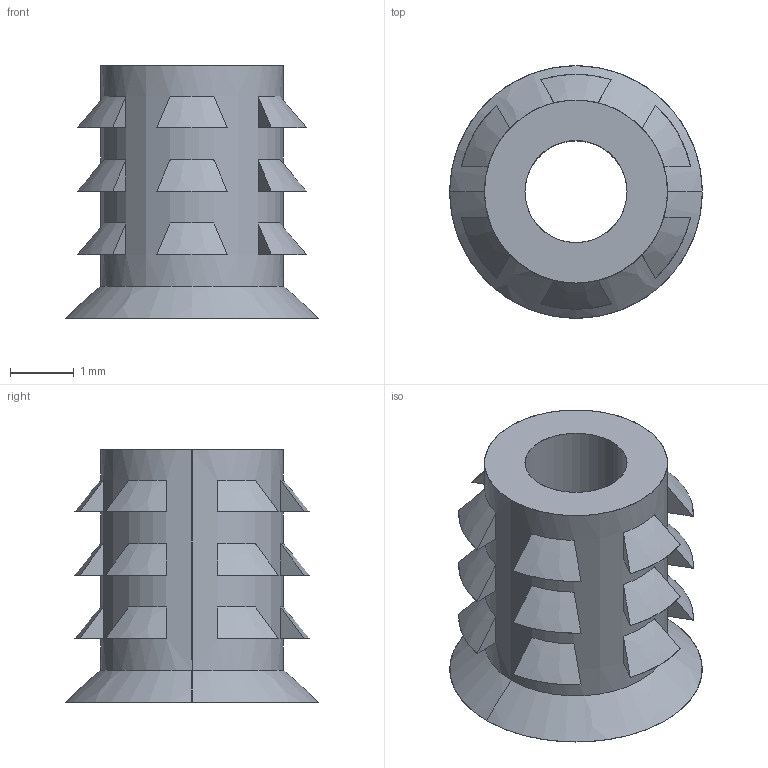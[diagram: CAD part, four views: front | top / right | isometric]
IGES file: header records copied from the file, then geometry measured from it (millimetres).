
Start section: SolidWorks IGES file using analytic representation for surfaces
Global section: file name: G:\thermofab project\INSERT\insert project\INSERT 3D\insert M2.IGS; native system: SolidWorks 2015; preprocessor: SolidWorks 2015; author: Administrator; date: 170809.185245; units: millimetre
Bounding box: 3.96 x 3.96 x 3.96 mm (x, y, z)
Surface area: 88.1 mm2 (no closed solid volume)
Topology: 0 solids, 0 shells, 82 faces, 504 edges, 504 vertices
Faces by surface type: bspline 76, revolution 6
